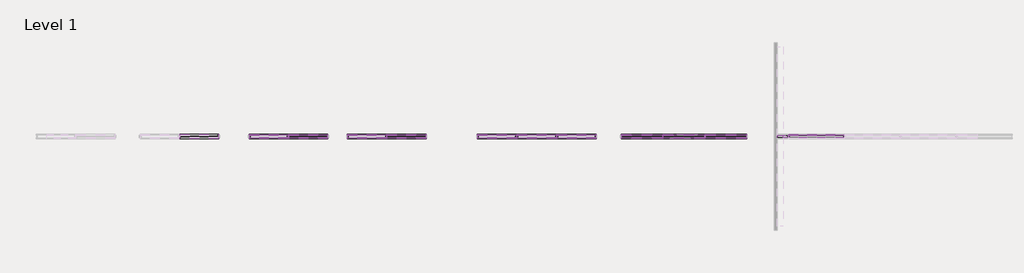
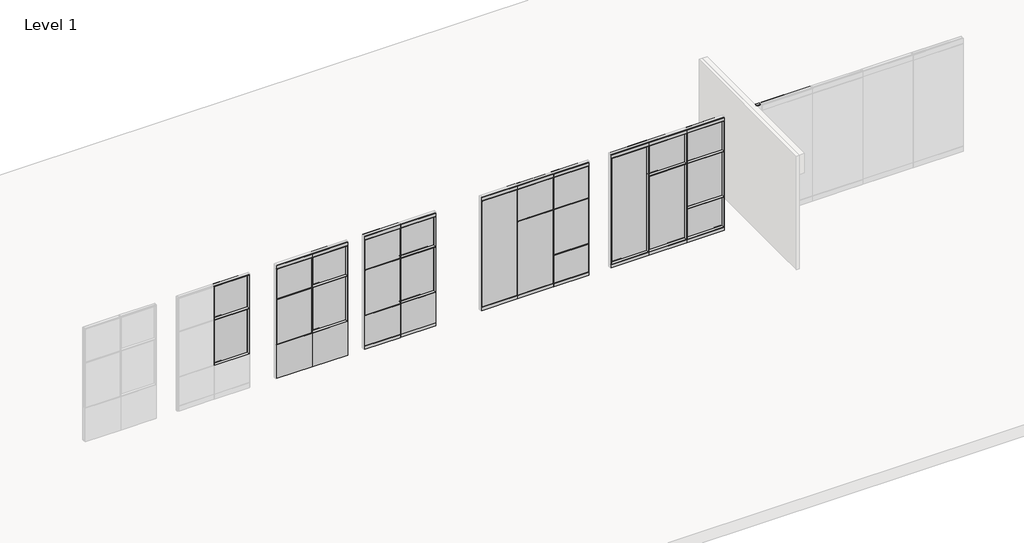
# One storey, part 12 of 22: 104 proxies.
"""IFC4 building model written with IfcOpenShell, lengths in millimetres."""

from ifc_helpers import new_model, si_unit, origin, place, context, project, spatial, transform, mapped, element, save
from components import fkc_8072fc11, fkn_5ed5fb2b, fascia_teknion_ceiling_and_base_fpb1_f6fada93, fascia_teknion_ceiling_and_base_fpb1_c09701a2, fascia_teknion_ceiling_and_base_fpb1_836afdf3, fascia_teknion_ceiling_and_base_fpb1_db20a659, fascia_teknion_ceiling_and_base_fpb1_df58155e, fascia_teknion_ceiling_and_base_fpb1_1edef506, fascia_teknion_ceiling_and_base_fpb1_cd47c96b, fascia_teknion_ceiling_and_base_fpb1_2ed09321, fascia_teknion_ceiling_and_base_fpc_696d0f28, fascia_teknion_ceiling_and_base_fpc_aab47f0c, fascia_teknion_ceiling_and_base_fpc_957b990b, frame_teknion_horizontal_rail_5872ae1a, frame_teknion_horizontal_rail_46ee653b, frame_teknion_horizontal_rail_d9ddab7f, frame_teknion_horizontal_rail_74d06c48, frame_teknion_horizontal_rail_96f289ab, frame_teknion_horizontal_rail_84c226ef, full_double_glass_8244c30e, full_single_78f033fe, glass_fascia_75a64c95, glass_fascia_d2a417b3, glass_fascia_74ba01bb, level_i_double_glass_59891672, level_i_single_glass_8a8042db, level_ii_d7c51a2e, level_ii_6986000c, level_ii_double_glass_cfeb0c75, level_ii_single_glass_14cafb3b, level_iii_double_glass_eeb2d2af, level_iii_single_glass_caffbde7, working_wall_monolithic_level_i_ddf61f7f, panel_fascia_teknion_mid_glass_level_i_f6f85d3a, working_wall_monolithic_level_i_49ea217e, panel_fascia_teknion_mid_glass_level_i_feadc1fd, segmented_level_i_double_glass_e7056d44, segmented_level_i_single_glass_277fe04a, segmented_level_ii_double_glass_1e1767e1, segmented_level_ii_single_glass_8e03ea76

model = new_model("IFC4")

# Units and contexts
model_context = context("Model", 3, world=origin())
ifc_project = project(units=[si_unit("LENGTHUNIT", "METRE", prefix="MILLI")], contexts=[model_context])

# Site, building, storey
site = spatial("IfcSite", under=ifc_project)
building = spatial("IfcBuilding", under=site)
storey = spatial("IfcBuildingStorey", under=building, Name="Level 1", Elevation=0.0)

# Proxies
placement = place(None, origin())
fkc_shape = fkc_8072fc11(model_context)
element("IfcBuildingElementProxy", 1, Name="Frame-Teknion-Altos-Base_Channel : FKC", ObjectType="Frame-Teknion-Altos-Base_Channel : FKC", at=placement, inside=storey, context=model_context, shape_type="MappedRepresentation", body=[
    mapped(fkc_shape, transform((3297.291666, 1812.351065, 0.0), x_axis=(-1.0, 0.0, 0.0), y_axis=(0.0, -1.0, 0.0), z_axis=(0.0, 0.0, 1.0))),
])
fkn_shape = fkn_5ed5fb2b(model_context)
element("IfcBuildingElementProxy", 2, Name="Frame-Teknion-Altos-Ceiling_Channel : FKN", ObjectType="Frame-Teknion-Altos-Ceiling_Channel : FKN", at=placement, inside=storey, context=model_context, shape_type="MappedRepresentation", body=[
    mapped(fkn_shape, transform((3360.791666, 1812.351065, 3048.0), x_axis=(-1.0, 0.0, 0.0), y_axis=(0.0, -1.0, 0.0), z_axis=(0.0, 0.0, 1.0))),
])
fascia_teknion_ceiling_and_base_fpb1_shape = fascia_teknion_ceiling_and_base_fpb1_f6fada93(model_context)
element("IfcBuildingElementProxy", 3, Name="Fascia-Teknion-Ceiling_and_Base : FPB1", ObjectType="Fascia-Teknion-Ceiling_and_Base : FPB1", at=placement, inside=storey, context=model_context, shape_type="MappedRepresentation", body=[
    mapped(fascia_teknion_ceiling_and_base_fpb1_shape, transform((4069.4615879, 1843.3402105, 15.875), x_axis=(1.0, 0.0, 0.0), y_axis=(0.0, 1.0, 0.0), z_axis=(0.0, 0.0, 1.0))),
])
fascia_teknion_ceiling_and_base_fpb1_2_shape = fascia_teknion_ceiling_and_base_fpb1_c09701a2(model_context)
element("IfcBuildingElementProxy", 4, Name="Fascia-Teknion-Ceiling_and_Base : FPB1", ObjectType="Fascia-Teknion-Ceiling_and_Base : FPB1", at=placement, inside=storey, context=model_context, shape_type="MappedRepresentation", body=[
    mapped(fascia_teknion_ceiling_and_base_fpb1_2_shape, transform((-6180.501085, 1862.357315, 15.875), x_axis=(1.0, 0.0, 0.0), y_axis=(0.0, 1.0, 0.0), z_axis=(0.0, 0.0, 1.0))),
])
element("IfcBuildingElementProxy", 5, Name="Fascia-Teknion-Ceiling_and_Base : FPB1", ObjectType="Fascia-Teknion-Ceiling_and_Base : FPB1", at=placement, inside=storey, context=model_context, shape_type="MappedRepresentation", body=[
    mapped(fascia_teknion_ceiling_and_base_fpb1_2_shape, transform((-5280.0909288, 1862.357315, 15.875), x_axis=(1.0, 0.0, 0.0), y_axis=(0.0, 1.0, 0.0), z_axis=(0.0, 0.0, 1.0))),
])
fascia_teknion_ceiling_and_base_fpb1_3_shape = fascia_teknion_ceiling_and_base_fpb1_836afdf3(model_context)
element("IfcBuildingElementProxy", 6, Name="Fascia-Teknion-Ceiling_and_Base : FPB1", ObjectType="Fascia-Teknion-Ceiling_and_Base : FPB1", at=placement, inside=storey, context=model_context, shape_type="MappedRepresentation", body=[
    mapped(fascia_teknion_ceiling_and_base_fpb1_3_shape, transform((-3216.5184902, 1762.344815, 15.875), x_axis=(1.0, 0.0, 0.0), y_axis=(0.0, 1.0, 0.0), z_axis=(0.0, 0.0, 1.0))),
])
element("IfcBuildingElementProxy", 7, Name="Fascia-Teknion-Ceiling_and_Base : FPB1", ObjectType="Fascia-Teknion-Ceiling_and_Base : FPB1", at=placement, inside=storey, context=model_context, shape_type="MappedRepresentation", body=[
    mapped(fascia_teknion_ceiling_and_base_fpb1_3_shape, transform((-3216.5184902, 1862.357315, 15.875), x_axis=(-1.0, 0.0, 0.0), y_axis=(0.0, -1.0, 0.0), z_axis=(0.0, 0.0, 1.0))),
])
element("IfcBuildingElementProxy", 8, Name="Fascia-Teknion-Ceiling_and_Base : FPB1", ObjectType="Fascia-Teknion-Ceiling_and_Base : FPB1", at=placement, inside=storey, context=model_context, shape_type="MappedRepresentation", body=[
    mapped(fascia_teknion_ceiling_and_base_fpb1_3_shape, transform((-1401.708334, 1762.344815, 15.875), x_axis=(1.0, 0.0, 0.0), y_axis=(0.0, 1.0, 0.0), z_axis=(0.0, 0.0, 1.0))),
])
element("IfcBuildingElementProxy", 9, Name="Fascia-Teknion-Ceiling_and_Base : FPB1", ObjectType="Fascia-Teknion-Ceiling_and_Base : FPB1", at=placement, inside=storey, context=model_context, shape_type="MappedRepresentation", body=[
    mapped(fascia_teknion_ceiling_and_base_fpb1_3_shape, transform((-1401.708334, 1862.357315, 15.875), x_axis=(-1.0, 0.0, 0.0), y_axis=(0.0, -1.0, 0.0), z_axis=(0.0, 0.0, 1.0))),
])
fascia_teknion_ceiling_and_base_fpb1_4_shape = fascia_teknion_ceiling_and_base_fpb1_db20a659(model_context)
element("IfcBuildingElementProxy", 10, Name="Fascia-Teknion-Ceiling_and_Base : FPB1", ObjectType="Fascia-Teknion-Ceiling_and_Base : FPB1", at=placement, inside=storey, context=model_context, shape_type="MappedRepresentation", body=[
    mapped(fascia_teknion_ceiling_and_base_fpb1_4_shape, transform((1043.6865879, 1762.344815, 15.875), x_axis=(1.0, 0.0, 0.0), y_axis=(0.0, 1.0, 0.0), z_axis=(0.0, 0.0, 1.0))),
])
element("IfcBuildingElementProxy", 11, Name="Fascia-Teknion-Ceiling_and_Base : FPB1", ObjectType="Fascia-Teknion-Ceiling_and_Base : FPB1", at=placement, inside=storey, context=model_context, shape_type="MappedRepresentation", body=[
    mapped(fascia_teknion_ceiling_and_base_fpb1_4_shape, transform((1043.6865879, 1862.357315, 15.875), x_axis=(-1.0, 0.0, 0.0), y_axis=(0.0, -1.0, 0.0), z_axis=(0.0, 0.0, 1.0))),
])
fascia_teknion_ceiling_and_base_fpb1_5_shape = fascia_teknion_ceiling_and_base_fpb1_df58155e(model_context)
element("IfcBuildingElementProxy", 12, Name="Fascia-Teknion-Ceiling_and_Base : FPB1", ObjectType="Fascia-Teknion-Ceiling_and_Base : FPB1", at=placement, inside=storey, context=model_context, shape_type="MappedRepresentation", body=[
    mapped(fascia_teknion_ceiling_and_base_fpb1_5_shape, transform((85.4815098, 1762.344815, 15.875), x_axis=(1.0, 0.0, 0.0), y_axis=(0.0, 1.0, 0.0), z_axis=(0.0, 0.0, 1.0))),
])
element("IfcBuildingElementProxy", 13, Name="Fascia-Teknion-Ceiling_and_Base : FPB1", ObjectType="Fascia-Teknion-Ceiling_and_Base : FPB1", at=placement, inside=storey, context=model_context, shape_type="MappedRepresentation", body=[
    mapped(fascia_teknion_ceiling_and_base_fpb1_5_shape, transform((85.4815098, 1862.357315, 15.875), x_axis=(-1.0, 0.0, 0.0), y_axis=(0.0, -1.0, 0.0), z_axis=(0.0, 0.0, 1.0))),
])
element("IfcBuildingElementProxy", 14, Name="Fascia-Teknion-Ceiling_and_Base : FPB1", ObjectType="Fascia-Teknion-Ceiling_and_Base : FPB1", at=placement, inside=storey, context=model_context, shape_type="MappedRepresentation", body=[
    mapped(fascia_teknion_ceiling_and_base_fpb1_5_shape, transform((2001.891666, 1762.344815, 15.875), x_axis=(1.0, 0.0, 0.0), y_axis=(0.0, 1.0, 0.0), z_axis=(0.0, 0.0, 1.0))),
])
element("IfcBuildingElementProxy", 15, Name="Fascia-Teknion-Ceiling_and_Base : FPB1", ObjectType="Fascia-Teknion-Ceiling_and_Base : FPB1", at=placement, inside=storey, context=model_context, shape_type="MappedRepresentation", body=[
    mapped(fascia_teknion_ceiling_and_base_fpb1_5_shape, transform((2001.891666, 1862.357315, 15.875), x_axis=(-1.0, 0.0, 0.0), y_axis=(0.0, -1.0, 0.0), z_axis=(0.0, 0.0, 1.0))),
])
fascia_teknion_ceiling_and_base_fpb1_6_shape = fascia_teknion_ceiling_and_base_fpb1_1edef506(model_context)
element("IfcBuildingElementProxy", 16, Name="Fascia-Teknion-Ceiling_and_Base : FPB1", ObjectType="Fascia-Teknion-Ceiling_and_Base : FPB1", at=placement, inside=storey, context=model_context, shape_type="MappedRepresentation", body=[
    mapped(fascia_teknion_ceiling_and_base_fpb1_6_shape, transform((-2309.1134121, 1762.344815, 15.875), x_axis=(1.0, 0.0, 0.0), y_axis=(0.0, 1.0, 0.0), z_axis=(0.0, 0.0, 1.0))),
])
element("IfcBuildingElementProxy", 17, Name="Fascia-Teknion-Ceiling_and_Base : FPB1", ObjectType="Fascia-Teknion-Ceiling_and_Base : FPB1", at=placement, inside=storey, context=model_context, shape_type="MappedRepresentation", body=[
    mapped(fascia_teknion_ceiling_and_base_fpb1_6_shape, transform((-2309.1134121, 1862.357315, 15.875), x_axis=(-1.0, 0.0, 0.0), y_axis=(0.0, -1.0, 0.0), z_axis=(0.0, 0.0, 1.0))),
])
fascia_teknion_ceiling_and_base_fpb1_7_shape = fascia_teknion_ceiling_and_base_fpb1_cd47c96b(model_context)
element("IfcBuildingElementProxy", 18, Name="Fascia-Teknion-Ceiling_and_Base : FPB1", ObjectType="Fascia-Teknion-Ceiling_and_Base : FPB1", at=placement, inside=storey, context=model_context, shape_type="MappedRepresentation", body=[
    mapped(fascia_teknion_ceiling_and_base_fpb1_7_shape, transform((-6180.501085, 1762.344815, 15.875), x_axis=(1.0, 0.0, 0.0), y_axis=(0.0, 1.0, 0.0), z_axis=(0.0, 0.0, 1.0))),
])
element("IfcBuildingElementProxy", 19, Name="Fascia-Teknion-Ceiling_and_Base : FPB1", ObjectType="Fascia-Teknion-Ceiling_and_Base : FPB1", at=placement, inside=storey, context=model_context, shape_type="MappedRepresentation", body=[
    mapped(fascia_teknion_ceiling_and_base_fpb1_7_shape, transform((-5280.0909288, 1762.344815, 15.875), x_axis=(1.0, 0.0, 0.0), y_axis=(0.0, 1.0, 0.0), z_axis=(0.0, 0.0, 1.0))),
])
element("IfcBuildingElementProxy", 20, Name="Fascia-Teknion-Ceiling_and_Base : FPC", ObjectType="Fascia-Teknion-Ceiling_and_Base : FPC", at=placement, inside=storey, context=model_context, shape_type="MappedRepresentation", body=[
    mapped(fascia_teknion_ceiling_and_base_fpb1_shape, transform((4069.4615879, 1843.3402105, 2900.045), x_axis=(1.0, 0.0, 0.0), y_axis=(0.0, 1.0, 0.0), z_axis=(0.0, 0.0, 1.0))),
])
element("IfcBuildingElementProxy", 21, Name="Fascia-Teknion-Ceiling_and_Base : FPC", ObjectType="Fascia-Teknion-Ceiling_and_Base : FPC", at=placement, inside=storey, context=model_context, shape_type="MappedRepresentation", body=[
    mapped(fascia_teknion_ceiling_and_base_fpb1_3_shape, transform((-3216.5184902, 1762.344815, 2950.845), x_axis=(1.0, 0.0, 0.0), y_axis=(0.0, 1.0, 0.0), z_axis=(0.0, 0.0, 1.0))),
])
element("IfcBuildingElementProxy", 22, Name="Fascia-Teknion-Ceiling_and_Base : FPC", ObjectType="Fascia-Teknion-Ceiling_and_Base : FPC", at=placement, inside=storey, context=model_context, shape_type="MappedRepresentation", body=[
    mapped(fascia_teknion_ceiling_and_base_fpb1_3_shape, transform((-1401.708334, 1762.344815, 2950.845), x_axis=(1.0, 0.0, 0.0), y_axis=(0.0, 1.0, 0.0), z_axis=(0.0, 0.0, 1.0))),
])
fascia_teknion_ceiling_and_base_fpb1_8_shape = fascia_teknion_ceiling_and_base_fpb1_2ed09321(model_context)
element("IfcBuildingElementProxy", 23, Name="Fascia-Teknion-Ceiling_and_Base : FPC", ObjectType="Fascia-Teknion-Ceiling_and_Base : FPC", at=placement, inside=storey, context=model_context, shape_type="MappedRepresentation", body=[
    mapped(fascia_teknion_ceiling_and_base_fpb1_8_shape, transform((-3216.5184902, 1862.357315, 2950.845), x_axis=(1.0, 0.0, 0.0), y_axis=(0.0, 1.0, 0.0), z_axis=(0.0, 0.0, 1.0))),
])
element("IfcBuildingElementProxy", 24, Name="Fascia-Teknion-Ceiling_and_Base : FPC", ObjectType="Fascia-Teknion-Ceiling_and_Base : FPC", at=placement, inside=storey, context=model_context, shape_type="MappedRepresentation", body=[
    mapped(fascia_teknion_ceiling_and_base_fpb1_8_shape, transform((-1401.708334, 1862.357315, 2950.845), x_axis=(1.0, 0.0, 0.0), y_axis=(0.0, 1.0, 0.0), z_axis=(0.0, 0.0, 1.0))),
])
element("IfcBuildingElementProxy", 25, Name="Fascia-Teknion-Ceiling_and_Base : FPC", ObjectType="Fascia-Teknion-Ceiling_and_Base : FPC", at=placement, inside=storey, context=model_context, shape_type="MappedRepresentation", body=[
    mapped(fascia_teknion_ceiling_and_base_fpb1_2_shape, transform((-6180.501085, 1862.357315, 2950.845), x_axis=(1.0, 0.0, 0.0), y_axis=(0.0, 1.0, 0.0), z_axis=(0.0, 0.0, 1.0))),
])
element("IfcBuildingElementProxy", 26, Name="Fascia-Teknion-Ceiling_and_Base : FPC", ObjectType="Fascia-Teknion-Ceiling_and_Base : FPC", at=placement, inside=storey, context=model_context, shape_type="MappedRepresentation", body=[
    mapped(fascia_teknion_ceiling_and_base_fpb1_2_shape, transform((-5280.0909288, 1862.357315, 2950.845), x_axis=(1.0, 0.0, 0.0), y_axis=(0.0, 1.0, 0.0), z_axis=(0.0, 0.0, 1.0))),
])
element("IfcBuildingElementProxy", 27, Name="Fascia-Teknion-Ceiling_and_Base : FPC", ObjectType="Fascia-Teknion-Ceiling_and_Base : FPC", at=placement, inside=storey, context=model_context, shape_type="MappedRepresentation", body=[
    mapped(fascia_teknion_ceiling_and_base_fpb1_2_shape, transform((-8415.701085, 1862.357315, 2950.845), x_axis=(1.0, 0.0, 0.0), y_axis=(0.0, 1.0, 0.0), z_axis=(0.0, 0.0, 1.0))),
])
element("IfcBuildingElementProxy", 28, Name="Fascia-Teknion-Ceiling_and_Base : FPC", ObjectType="Fascia-Teknion-Ceiling_and_Base : FPC", at=placement, inside=storey, context=model_context, shape_type="MappedRepresentation", body=[
    mapped(fascia_teknion_ceiling_and_base_fpb1_2_shape, transform((-7515.2909288, 1862.357315, 2950.845), x_axis=(1.0, 0.0, 0.0), y_axis=(0.0, 1.0, 0.0), z_axis=(0.0, 0.0, 1.0))),
])
element("IfcBuildingElementProxy", 29, Name="Fascia-Teknion-Ceiling_and_Base : FPC", ObjectType="Fascia-Teknion-Ceiling_and_Base : FPC", at=placement, inside=storey, context=model_context, shape_type="MappedRepresentation", body=[
    mapped(fascia_teknion_ceiling_and_base_fpb1_7_shape, transform((-6180.501085, 1762.344815, 2950.845), x_axis=(1.0, 0.0, 0.0), y_axis=(0.0, 1.0, 0.0), z_axis=(0.0, 0.0, 1.0))),
])
element("IfcBuildingElementProxy", 30, Name="Fascia-Teknion-Ceiling_and_Base : FPC", ObjectType="Fascia-Teknion-Ceiling_and_Base : FPC", at=placement, inside=storey, context=model_context, shape_type="MappedRepresentation", body=[
    mapped(fascia_teknion_ceiling_and_base_fpb1_7_shape, transform((-5280.0909288, 1762.344815, 2950.845), x_axis=(1.0, 0.0, 0.0), y_axis=(0.0, 1.0, 0.0), z_axis=(0.0, 0.0, 1.0))),
])
element("IfcBuildingElementProxy", 31, Name="Fascia-Teknion-Ceiling_and_Base : FPC", ObjectType="Fascia-Teknion-Ceiling_and_Base : FPC", at=placement, inside=storey, context=model_context, shape_type="MappedRepresentation", body=[
    mapped(fascia_teknion_ceiling_and_base_fpb1_7_shape, transform((-8415.701085, 1762.344815, 2950.845), x_axis=(1.0, 0.0, 0.0), y_axis=(0.0, 1.0, 0.0), z_axis=(0.0, 0.0, 1.0))),
])
element("IfcBuildingElementProxy", 32, Name="Fascia-Teknion-Ceiling_and_Base : FPC", ObjectType="Fascia-Teknion-Ceiling_and_Base : FPC", at=placement, inside=storey, context=model_context, shape_type="MappedRepresentation", body=[
    mapped(fascia_teknion_ceiling_and_base_fpb1_7_shape, transform((-7515.2909288, 1762.344815, 2950.845), x_axis=(1.0, 0.0, 0.0), y_axis=(0.0, 1.0, 0.0), z_axis=(0.0, 0.0, 1.0))),
])
element("IfcBuildingElementProxy", 33, Name="Fascia-Teknion-Ceiling_and_Base : FPC", ObjectType="Fascia-Teknion-Ceiling_and_Base : FPC", at=placement, inside=storey, context=model_context, shape_type="MappedRepresentation", body=[
    mapped(fascia_teknion_ceiling_and_base_fpb1_4_shape, transform((1043.6865879, 1762.344815, 2950.845), x_axis=(1.0, 0.0, 0.0), y_axis=(0.0, 1.0, 0.0), z_axis=(0.0, 0.0, 1.0))),
])
fascia_teknion_ceiling_and_base_fpc_shape = fascia_teknion_ceiling_and_base_fpc_696d0f28(model_context)
element("IfcBuildingElementProxy", 34, Name="Fascia-Teknion-Ceiling_and_Base : FPC", ObjectType="Fascia-Teknion-Ceiling_and_Base : FPC", at=placement, inside=storey, context=model_context, shape_type="MappedRepresentation", body=[
    mapped(fascia_teknion_ceiling_and_base_fpc_shape, transform((1043.6865879, 1862.357315, 2950.845), x_axis=(1.0, 0.0, 0.0), y_axis=(0.0, 1.0, 0.0), z_axis=(0.0, 0.0, 1.0))),
])
element("IfcBuildingElementProxy", 35, Name="Fascia-Teknion-Ceiling_and_Base : FPC", ObjectType="Fascia-Teknion-Ceiling_and_Base : FPC", at=placement, inside=storey, context=model_context, shape_type="MappedRepresentation", body=[
    mapped(fascia_teknion_ceiling_and_base_fpb1_5_shape, transform((85.4815098, 1762.344815, 2950.845), x_axis=(1.0, 0.0, 0.0), y_axis=(0.0, 1.0, 0.0), z_axis=(0.0, 0.0, 1.0))),
])
element("IfcBuildingElementProxy", 36, Name="Fascia-Teknion-Ceiling_and_Base : FPC", ObjectType="Fascia-Teknion-Ceiling_and_Base : FPC", at=placement, inside=storey, context=model_context, shape_type="MappedRepresentation", body=[
    mapped(fascia_teknion_ceiling_and_base_fpb1_5_shape, transform((2001.891666, 1762.344815, 2950.845), x_axis=(1.0, 0.0, 0.0), y_axis=(0.0, 1.0, 0.0), z_axis=(0.0, 0.0, 1.0))),
])
fascia_teknion_ceiling_and_base_fpc_2_shape = fascia_teknion_ceiling_and_base_fpc_aab47f0c(model_context)
element("IfcBuildingElementProxy", 37, Name="Fascia-Teknion-Ceiling_and_Base : FPC", ObjectType="Fascia-Teknion-Ceiling_and_Base : FPC", at=placement, inside=storey, context=model_context, shape_type="MappedRepresentation", body=[
    mapped(fascia_teknion_ceiling_and_base_fpc_2_shape, transform((85.4815098, 1862.357315, 2950.845), x_axis=(1.0, 0.0, 0.0), y_axis=(0.0, 1.0, 0.0), z_axis=(0.0, 0.0, 1.0))),
])
element("IfcBuildingElementProxy", 38, Name="Fascia-Teknion-Ceiling_and_Base : FPC", ObjectType="Fascia-Teknion-Ceiling_and_Base : FPC", at=placement, inside=storey, context=model_context, shape_type="MappedRepresentation", body=[
    mapped(fascia_teknion_ceiling_and_base_fpc_2_shape, transform((2001.891666, 1862.357315, 2950.845), x_axis=(1.0, 0.0, 0.0), y_axis=(0.0, 1.0, 0.0), z_axis=(0.0, 0.0, 1.0))),
])
element("IfcBuildingElementProxy", 39, Name="Fascia-Teknion-Ceiling_and_Base : FPC", ObjectType="Fascia-Teknion-Ceiling_and_Base : FPC", at=placement, inside=storey, context=model_context, shape_type="MappedRepresentation", body=[
    mapped(fascia_teknion_ceiling_and_base_fpb1_6_shape, transform((-2309.1134121, 1762.344815, 2950.845), x_axis=(1.0, 0.0, 0.0), y_axis=(0.0, 1.0, 0.0), z_axis=(0.0, 0.0, 1.0))),
])
fascia_teknion_ceiling_and_base_fpc_3_shape = fascia_teknion_ceiling_and_base_fpc_957b990b(model_context)
element("IfcBuildingElementProxy", 40, Name="Fascia-Teknion-Ceiling_and_Base : FPC", ObjectType="Fascia-Teknion-Ceiling_and_Base : FPC", at=placement, inside=storey, context=model_context, shape_type="MappedRepresentation", body=[
    mapped(fascia_teknion_ceiling_and_base_fpc_3_shape, transform((-2309.1134121, 1862.357315, 2950.845), x_axis=(1.0, 0.0, 0.0), y_axis=(0.0, 1.0, 0.0), z_axis=(0.0, 0.0, 1.0))),
])
frame_teknion_horizontal_rail_shape = frame_teknion_horizontal_rail_5872ae1a(model_context)
element("IfcBuildingElementProxy", 41, Name="Frame-Teknion-Horizontal_Rail : FPKK", ObjectType="Frame-Teknion-Horizontal_Rail : FPKK", at=placement, inside=storey, context=model_context, shape_type="MappedRepresentation", body=[
    mapped(frame_teknion_horizontal_rail_shape, transform((-3216.5184902, 1812.351065, 100.33), x_axis=(1.0, 0.0, 0.0), y_axis=(0.0, 1.0, 0.0), z_axis=(0.0, 0.0, 1.0))),
])
element("IfcBuildingElementProxy", 42, Name="Frame-Teknion-Horizontal_Rail : FPKK", ObjectType="Frame-Teknion-Horizontal_Rail : FPKK", at=placement, inside=storey, context=model_context, shape_type="MappedRepresentation", body=[
    mapped(frame_teknion_horizontal_rail_shape, transform((-3216.5184902, 1812.351065, 2947.67), x_axis=(1.0, 0.0, 0.0), y_axis=(0.0, 1.0, 0.0), z_axis=(0.0, 0.0, 1.0))),
])
element("IfcBuildingElementProxy", 43, Name="Frame-Teknion-Horizontal_Rail : FPKK", ObjectType="Frame-Teknion-Horizontal_Rail : FPKK", at=placement, inside=storey, context=model_context, shape_type="MappedRepresentation", body=[
    mapped(frame_teknion_horizontal_rail_shape, transform((-1401.708334, 1812.351065, 100.33), x_axis=(1.0, 0.0, 0.0), y_axis=(0.0, 1.0, 0.0), z_axis=(0.0, 0.0, 1.0))),
])
element("IfcBuildingElementProxy", 44, Name="Frame-Teknion-Horizontal_Rail : FPKK", ObjectType="Frame-Teknion-Horizontal_Rail : FPKK", at=placement, inside=storey, context=model_context, shape_type="MappedRepresentation", body=[
    mapped(frame_teknion_horizontal_rail_shape, transform((-1401.708334, 1812.351065, 862.33), x_axis=(1.0, 0.0, 0.0), y_axis=(0.0, 1.0, 0.0), z_axis=(0.0, 0.0, 1.0))),
])
element("IfcBuildingElementProxy", 45, Name="Frame-Teknion-Horizontal_Rail : FPKK", ObjectType="Frame-Teknion-Horizontal_Rail : FPKK", at=placement, inside=storey, context=model_context, shape_type="MappedRepresentation", body=[
    mapped(frame_teknion_horizontal_rail_shape, transform((-1401.708334, 1812.351065, 2081.53), x_axis=(1.0, 0.0, 0.0), y_axis=(0.0, 1.0, 0.0), z_axis=(0.0, 0.0, 1.0))),
])
element("IfcBuildingElementProxy", 46, Name="Frame-Teknion-Horizontal_Rail : FPKK", ObjectType="Frame-Teknion-Horizontal_Rail : FPKK", at=placement, inside=storey, context=model_context, shape_type="MappedRepresentation", body=[
    mapped(frame_teknion_horizontal_rail_shape, transform((-1401.708334, 1812.351065, 2947.67), x_axis=(1.0, 0.0, 0.0), y_axis=(0.0, 1.0, 0.0), z_axis=(0.0, 0.0, 1.0))),
])
element("IfcBuildingElementProxy", 47, Name="Frame-Teknion-Horizontal_Rail : FPKK", ObjectType="Frame-Teknion-Horizontal_Rail : FPKK", at=placement, inside=storey, context=model_context, shape_type="MappedRepresentation", body=[
    mapped(frame_teknion_horizontal_rail_shape, transform((-8415.701085, 1812.351065, 917.575), x_axis=(1.0, 0.0, 0.0), y_axis=(0.0, 1.0, 0.0), z_axis=(0.0, 0.0, 1.0))),
])
element("IfcBuildingElementProxy", 48, Name="Frame-Teknion-Horizontal_Rail : FPKK", ObjectType="Frame-Teknion-Horizontal_Rail : FPKK", at=placement, inside=storey, context=model_context, shape_type="MappedRepresentation", body=[
    mapped(frame_teknion_horizontal_rail_shape, transform((-8415.701085, 1812.351065, 2136.775), x_axis=(1.0, 0.0, 0.0), y_axis=(0.0, 1.0, 0.0), z_axis=(0.0, 0.0, 1.0))),
])
element("IfcBuildingElementProxy", 49, Name="Frame-Teknion-Horizontal_Rail : FPKK", ObjectType="Frame-Teknion-Horizontal_Rail : FPKK", at=placement, inside=storey, context=model_context, shape_type="MappedRepresentation", body=[
    mapped(frame_teknion_horizontal_rail_shape, transform((-6180.501085, 1812.351065, 917.575), x_axis=(1.0, 0.0, 0.0), y_axis=(0.0, 1.0, 0.0), z_axis=(0.0, 0.0, 1.0))),
])
element("IfcBuildingElementProxy", 50, Name="Frame-Teknion-Horizontal_Rail : FPKK", ObjectType="Frame-Teknion-Horizontal_Rail : FPKK", at=placement, inside=storey, context=model_context, shape_type="MappedRepresentation", body=[
    mapped(frame_teknion_horizontal_rail_shape, transform((-6180.501085, 1812.351065, 2136.775), x_axis=(1.0, 0.0, 0.0), y_axis=(0.0, 1.0, 0.0), z_axis=(0.0, 0.0, 1.0))),
])
element("IfcBuildingElementProxy", 51, Name="Frame-Teknion-Horizontal_Rail : FPKK", ObjectType="Frame-Teknion-Horizontal_Rail : FPKK", at=placement, inside=storey, context=model_context, shape_type="MappedRepresentation", body=[
    mapped(frame_teknion_horizontal_rail_shape, transform((-10004.4909288, 1812.351065, 151.257), x_axis=(1.0, 0.0, 0.0), y_axis=(0.0, 1.0, 0.0), z_axis=(0.0, 0.0, 1.0))),
])
element("IfcBuildingElementProxy", 52, Name="Frame-Teknion-Horizontal_Rail : FPKK", ObjectType="Frame-Teknion-Horizontal_Rail : FPKK", at=placement, inside=storey, context=model_context, shape_type="MappedRepresentation", body=[
    mapped(frame_teknion_horizontal_rail_shape, transform((-7515.2909288, 1812.351065, 917.575), x_axis=(1.0, 0.0, 0.0), y_axis=(0.0, 1.0, 0.0), z_axis=(0.0, 0.0, 1.0))),
])
element("IfcBuildingElementProxy", 53, Name="Frame-Teknion-Horizontal_Rail : FPKK", ObjectType="Frame-Teknion-Horizontal_Rail : FPKK", at=placement, inside=storey, context=model_context, shape_type="MappedRepresentation", body=[
    mapped(frame_teknion_horizontal_rail_shape, transform((-7515.2909288, 1812.351065, 2136.775), x_axis=(1.0, 0.0, 0.0), y_axis=(0.0, 1.0, 0.0), z_axis=(0.0, 0.0, 1.0))),
])
element("IfcBuildingElementProxy", 54, Name="Frame-Teknion-Horizontal_Rail : FPKK", ObjectType="Frame-Teknion-Horizontal_Rail : FPKK", at=placement, inside=storey, context=model_context, shape_type="MappedRepresentation", body=[
    mapped(frame_teknion_horizontal_rail_shape, transform((-5280.0909288, 1812.351065, 917.575), x_axis=(1.0, 0.0, 0.0), y_axis=(0.0, 1.0, 0.0), z_axis=(0.0, 0.0, 1.0))),
])
element("IfcBuildingElementProxy", 55, Name="Frame-Teknion-Horizontal_Rail : FPKK", ObjectType="Frame-Teknion-Horizontal_Rail : FPKK", at=placement, inside=storey, context=model_context, shape_type="MappedRepresentation", body=[
    mapped(frame_teknion_horizontal_rail_shape, transform((-5280.0909288, 1812.351065, 2136.775), x_axis=(1.0, 0.0, 0.0), y_axis=(0.0, 1.0, 0.0), z_axis=(0.0, 0.0, 1.0))),
])
element("IfcBuildingElementProxy", 56, Name="Frame-Teknion-Horizontal_Rail : FPKK", ObjectType="Frame-Teknion-Horizontal_Rail : FPKK", at=placement, inside=storey, context=model_context, shape_type="MappedRepresentation", body=[
    mapped(frame_teknion_horizontal_rail_shape, transform((-6180.501085, 1812.351065, 2947.543), x_axis=(1.0, 0.0, 0.0), y_axis=(0.0, 1.0, 0.0), z_axis=(0.0, 0.0, 1.0))),
])
element("IfcBuildingElementProxy", 57, Name="Frame-Teknion-Horizontal_Rail : FPKK", ObjectType="Frame-Teknion-Horizontal_Rail : FPKK", at=placement, inside=storey, context=model_context, shape_type="MappedRepresentation", body=[
    mapped(frame_teknion_horizontal_rail_shape, transform((-5280.0909288, 1812.351065, 2947.543), x_axis=(1.0, 0.0, 0.0), y_axis=(0.0, 1.0, 0.0), z_axis=(0.0, 0.0, 1.0))),
])
element("IfcBuildingElementProxy", 58, Name="Frame-Teknion-Horizontal_Rail : FPKK", ObjectType="Frame-Teknion-Horizontal_Rail : FPKK", at=placement, inside=storey, context=model_context, shape_type="MappedRepresentation", body=[
    mapped(frame_teknion_horizontal_rail_shape, transform((-8415.701085, 1812.351065, 2947.543), x_axis=(1.0, 0.0, 0.0), y_axis=(0.0, 1.0, 0.0), z_axis=(0.0, 0.0, 1.0))),
])
element("IfcBuildingElementProxy", 59, Name="Frame-Teknion-Horizontal_Rail : FPKK", ObjectType="Frame-Teknion-Horizontal_Rail : FPKK", at=placement, inside=storey, context=model_context, shape_type="MappedRepresentation", body=[
    mapped(frame_teknion_horizontal_rail_shape, transform((-7515.2909288, 1812.351065, 2947.543), x_axis=(1.0, 0.0, 0.0), y_axis=(0.0, 1.0, 0.0), z_axis=(0.0, 0.0, 1.0))),
])
element("IfcBuildingElementProxy", 60, Name="Frame-Teknion-Horizontal_Rail : FPKK", ObjectType="Frame-Teknion-Horizontal_Rail : FPKK", at=placement, inside=storey, context=model_context, shape_type="MappedRepresentation", body=[
    mapped(frame_teknion_horizontal_rail_shape, transform((-6180.501085, 1812.351065, 100.457), x_axis=(1.0, 0.0, 0.0), y_axis=(0.0, 1.0, 0.0), z_axis=(0.0, 0.0, 1.0))),
])
element("IfcBuildingElementProxy", 61, Name="Frame-Teknion-Horizontal_Rail : FPKK", ObjectType="Frame-Teknion-Horizontal_Rail : FPKK", at=placement, inside=storey, context=model_context, shape_type="MappedRepresentation", body=[
    mapped(frame_teknion_horizontal_rail_shape, transform((-5280.0909288, 1812.351065, 100.457), x_axis=(1.0, 0.0, 0.0), y_axis=(0.0, 1.0, 0.0), z_axis=(0.0, 0.0, 1.0))),
])
frame_teknion_horizontal_rail_2_shape = frame_teknion_horizontal_rail_46ee653b(model_context)
element("IfcBuildingElementProxy", 62, Name="Frame-Teknion-Horizontal_Rail : FPKK", ObjectType="Frame-Teknion-Horizontal_Rail : FPKK", at=placement, inside=storey, context=model_context, shape_type="MappedRepresentation", body=[
    mapped(frame_teknion_horizontal_rail_2_shape, transform((-2309.1134121, 1812.351065, 100.33), x_axis=(1.0, 0.0, 0.0), y_axis=(0.0, 1.0, 0.0), z_axis=(0.0, 0.0, 1.0))),
])
element("IfcBuildingElementProxy", 63, Name="Frame-Teknion-Horizontal_Rail : FPKK", ObjectType="Frame-Teknion-Horizontal_Rail : FPKK", at=placement, inside=storey, context=model_context, shape_type="MappedRepresentation", body=[
    mapped(frame_teknion_horizontal_rail_2_shape, transform((-2309.1134121, 1812.351065, 2947.67), x_axis=(1.0, 0.0, 0.0), y_axis=(0.0, 1.0, 0.0), z_axis=(0.0, 0.0, 1.0))),
])
frame_teknion_horizontal_rail_3_shape = frame_teknion_horizontal_rail_d9ddab7f(model_context)
element("IfcBuildingElementProxy", 64, Name="Frame-Teknion-Horizontal_Rail : FPKK", ObjectType="Frame-Teknion-Horizontal_Rail : FPKK", at=placement, inside=storey, context=model_context, shape_type="MappedRepresentation", body=[
    mapped(frame_teknion_horizontal_rail_3_shape, transform((85.4815098, 1812.351065, 100.33), x_axis=(1.0, 0.0, 0.0), y_axis=(0.0, 1.0, 0.0), z_axis=(0.0, 0.0, 1.0))),
])
element("IfcBuildingElementProxy", 65, Name="Frame-Teknion-Horizontal_Rail : FPKK", ObjectType="Frame-Teknion-Horizontal_Rail : FPKK", at=placement, inside=storey, context=model_context, shape_type="MappedRepresentation", body=[
    mapped(frame_teknion_horizontal_rail_3_shape, transform((85.4815098, 1812.351065, 2947.67), x_axis=(1.0, 0.0, 0.0), y_axis=(0.0, 1.0, 0.0), z_axis=(0.0, 0.0, 1.0))),
])
element("IfcBuildingElementProxy", 66, Name="Frame-Teknion-Horizontal_Rail : FPKK", ObjectType="Frame-Teknion-Horizontal_Rail : FPKK", at=placement, inside=storey, context=model_context, shape_type="MappedRepresentation", body=[
    mapped(frame_teknion_horizontal_rail_3_shape, transform((2001.891666, 1812.351065, 100.33), x_axis=(1.0, 0.0, 0.0), y_axis=(0.0, 1.0, 0.0), z_axis=(0.0, 0.0, 1.0))),
])
element("IfcBuildingElementProxy", 67, Name="Frame-Teknion-Horizontal_Rail : FPKK", ObjectType="Frame-Teknion-Horizontal_Rail : FPKK", at=placement, inside=storey, context=model_context, shape_type="MappedRepresentation", body=[
    mapped(frame_teknion_horizontal_rail_3_shape, transform((2001.891666, 1812.351065, 913.13), x_axis=(1.0, 0.0, 0.0), y_axis=(0.0, 1.0, 0.0), z_axis=(0.0, 0.0, 1.0))),
])
element("IfcBuildingElementProxy", 68, Name="Frame-Teknion-Horizontal_Rail : FPKK", ObjectType="Frame-Teknion-Horizontal_Rail : FPKK", at=placement, inside=storey, context=model_context, shape_type="MappedRepresentation", body=[
    mapped(frame_teknion_horizontal_rail_3_shape, transform((2001.891666, 1812.351065, 2132.33), x_axis=(1.0, 0.0, 0.0), y_axis=(0.0, 1.0, 0.0), z_axis=(0.0, 0.0, 1.0))),
])
element("IfcBuildingElementProxy", 69, Name="Frame-Teknion-Horizontal_Rail : FPKK", ObjectType="Frame-Teknion-Horizontal_Rail : FPKK", at=placement, inside=storey, context=model_context, shape_type="MappedRepresentation", body=[
    mapped(frame_teknion_horizontal_rail_3_shape, transform((2001.891666, 1812.351065, 2947.67), x_axis=(1.0, 0.0, 0.0), y_axis=(0.0, 1.0, 0.0), z_axis=(0.0, 0.0, 1.0))),
])
frame_teknion_horizontal_rail_4_shape = frame_teknion_horizontal_rail_74d06c48(model_context)
element("IfcBuildingElementProxy", 70, Name="Frame-Teknion-Horizontal_Rail : FPKK", ObjectType="Frame-Teknion-Horizontal_Rail : FPKK", at=placement, inside=storey, context=model_context, shape_type="MappedRepresentation", body=[
    mapped(frame_teknion_horizontal_rail_4_shape, transform((1043.6865879, 1812.351065, 100.33), x_axis=(1.0, 0.0, 0.0), y_axis=(0.0, 1.0, 0.0), z_axis=(0.0, 0.0, 1.0))),
])
element("IfcBuildingElementProxy", 71, Name="Frame-Teknion-Horizontal_Rail : FPKK", ObjectType="Frame-Teknion-Horizontal_Rail : FPKK", at=placement, inside=storey, context=model_context, shape_type="MappedRepresentation", body=[
    mapped(frame_teknion_horizontal_rail_4_shape, transform((1043.6865879, 1812.351065, 2947.67), x_axis=(1.0, 0.0, 0.0), y_axis=(0.0, 1.0, 0.0), z_axis=(0.0, 0.0, 1.0))),
])
frame_teknion_horizontal_rail_5_shape = frame_teknion_horizontal_rail_96f289ab(model_context)
element("IfcBuildingElementProxy", 72, Name="Frame-Teknion-Horizontal_Rail : FPKK", ObjectType="Frame-Teknion-Horizontal_Rail : FPKK", at=placement, inside=storey, context=model_context, shape_type="MappedRepresentation", body=[
    mapped(frame_teknion_horizontal_rail_5_shape, transform((4069.4615879, 1812.3522105, 151.257), x_axis=(1.0, 0.0, 0.0), y_axis=(0.0, 1.0, 0.0), z_axis=(0.0, 0.0, 1.0))),
])
element("IfcBuildingElementProxy", 73, Name="Frame-Teknion-Horizontal_Rail : FPKK", ObjectType="Frame-Teknion-Horizontal_Rail : FPKK", at=placement, inside=storey, context=model_context, shape_type="MappedRepresentation", body=[
    mapped(frame_teknion_horizontal_rail_5_shape, transform((4069.4615879, 1812.3522105, 2898.3305), x_axis=(1.0, 0.0, 0.0), y_axis=(0.0, 1.0, 0.0), z_axis=(0.0, 0.0, 1.0))),
])
frame_teknion_horizontal_rail_6_shape = frame_teknion_horizontal_rail_84c226ef(model_context)
element("IfcBuildingElementProxy", 74, Name="Frame-Teknion-Horizontal_Rail : FPKK", ObjectType="Frame-Teknion-Horizontal_Rail : FPKK", at=placement, inside=storey, context=model_context, shape_type="MappedRepresentation", body=[
    mapped(frame_teknion_horizontal_rail_6_shape, transform((3297.291666, 1812.351065, 1485.8890638), x_axis=(-1.0, 0.0, 0.0), y_axis=(0.0, -1.0, 0.0), z_axis=(0.0, 0.0, 1.0))),
])
full_double_glass_shape = full_double_glass_8244c30e(model_context)
element("IfcBuildingElementProxy", 75, Name="Panel-Fascia-Teknion-Altos-Double_Glass : Full-Double Glass", ObjectType="Panel-Fascia-Teknion-Altos-Double_Glass : Full-Double Glass", at=placement, inside=storey, context=model_context, shape_type="MappedRepresentation", body=[
    mapped(full_double_glass_shape, transform((-3216.5184902, 1812.351065, 100.33), x_axis=(1.0, 0.0, 0.0), y_axis=(0.0, 1.0, 0.0), z_axis=(0.0, 0.0, 1.0))),
])
full_single_shape = full_single_78f033fe(model_context)
element("IfcBuildingElementProxy", 76, Name="Panel-Fascia-Teknion-Altos-Single_Glass : Full-Single", ObjectType="Panel-Fascia-Teknion-Altos-Single_Glass : Full-Single", at=placement, inside=storey, context=model_context, shape_type="MappedRepresentation", body=[
    mapped(full_single_shape, transform((85.4815098, 1812.351065, 100.33), x_axis=(1.0, 0.0, 0.0), y_axis=(0.0, 1.0, 0.0), z_axis=(0.0, 0.0, 1.0))),
])
glass_fascia_shape = glass_fascia_75a64c95(model_context)
element("IfcBuildingElementProxy", 77, Name="Panel-Fascia-Teknion-Altos-Glass : Glass Fascia", ObjectType="Panel-Fascia-Teknion-Altos-Glass : Glass Fascia", at=placement, inside=storey, context=model_context, shape_type="MappedRepresentation", body=[
    mapped(glass_fascia_shape, transform((-10004.4909288, 1812.351065, 2136.775), x_axis=(1.0, 0.0, 0.0), y_axis=(0.0, 1.0, 0.0), z_axis=(0.0, 0.0, 1.0))),
])
glass_fascia_2_shape = glass_fascia_d2a417b3(model_context)
element("IfcBuildingElementProxy", 78, Name="Panel-Fascia-Teknion-Altos-Glass : Glass Fascia", ObjectType="Panel-Fascia-Teknion-Altos-Glass : Glass Fascia", at=placement, inside=storey, context=model_context, shape_type="MappedRepresentation", body=[
    mapped(glass_fascia_2_shape, transform((-8415.701085, 1812.351065, 2136.775), x_axis=(1.0, 0.0, 0.0), y_axis=(0.0, 1.0, 0.0), z_axis=(0.0, 0.0, 1.0))),
])
element("IfcBuildingElementProxy", 79, Name="Panel-Fascia-Teknion-Altos-Glass : Glass Fascia", ObjectType="Panel-Fascia-Teknion-Altos-Glass : Glass Fascia", at=placement, inside=storey, context=model_context, shape_type="MappedRepresentation", body=[
    mapped(glass_fascia_2_shape, transform((-6180.501085, 1812.351065, 2136.775), x_axis=(1.0, 0.0, 0.0), y_axis=(0.0, 1.0, 0.0), z_axis=(0.0, 0.0, 1.0))),
])
glass_fascia_3_shape = glass_fascia_74ba01bb(model_context)
element("IfcBuildingElementProxy", 80, Name="Panel-Fascia-Teknion-Altos-Glass : Glass Fascia", ObjectType="Panel-Fascia-Teknion-Altos-Glass : Glass Fascia", at=placement, inside=storey, context=model_context, shape_type="MappedRepresentation", body=[
    mapped(glass_fascia_3_shape, transform((-7515.2909288, 1812.351065, 2136.775), x_axis=(1.0, 0.0, 0.0), y_axis=(0.0, 1.0, 0.0), z_axis=(0.0, 0.0, 1.0))),
])
element("IfcBuildingElementProxy", 81, Name="Panel-Fascia-Teknion-Altos-Glass : Glass Fascia", ObjectType="Panel-Fascia-Teknion-Altos-Glass : Glass Fascia", at=placement, inside=storey, context=model_context, shape_type="MappedRepresentation", body=[
    mapped(glass_fascia_3_shape, transform((-5280.0909288, 1812.351065, 2136.775), x_axis=(1.0, 0.0, 0.0), y_axis=(0.0, 1.0, 0.0), z_axis=(0.0, 0.0, 1.0))),
])
level_i_double_glass_shape = level_i_double_glass_59891672(model_context)
element("IfcBuildingElementProxy", 82, Name="Panel-Fascia-Teknion-Altos-Double_Glass : Level I-Double Glass", ObjectType="Panel-Fascia-Teknion-Altos-Double_Glass : Level I-Double Glass", at=placement, inside=storey, context=model_context, shape_type="MappedRepresentation", body=[
    mapped(level_i_double_glass_shape, transform((-1401.708334, 1812.351065, 100.33), x_axis=(1.0, 0.0, 0.0), y_axis=(0.0, 1.0, 0.0), z_axis=(0.0, 0.0, 1.0))),
])
level_i_single_glass_shape = level_i_single_glass_8a8042db(model_context)
element("IfcBuildingElementProxy", 83, Name="Panel-Fascia-Teknion-Altos-Single_Glass : Level I-Single Glass", ObjectType="Panel-Fascia-Teknion-Altos-Single_Glass : Level I-Single Glass", at=placement, inside=storey, context=model_context, shape_type="MappedRepresentation", body=[
    mapped(level_i_single_glass_shape, transform((2001.891666, 1812.351065, 100.33), x_axis=(1.0, 0.0, 0.0), y_axis=(0.0, 1.0, 0.0), z_axis=(0.0, 0.0, 1.0))),
])
level_ii_shape = level_ii_d7c51a2e(model_context)
element("IfcBuildingElementProxy", 84, Name="Panel-Fascia-Teknion-Altos-Mid_Glass : Level II", ObjectType="Panel-Fascia-Teknion-Altos-Mid_Glass : Level II", at=placement, inside=storey, context=model_context, shape_type="MappedRepresentation", body=[
    mapped(level_ii_shape, transform((-8415.701085, 1812.351065, 917.575), x_axis=(1.0, 0.0, 0.0), y_axis=(0.0, 1.0, 0.0), z_axis=(0.0, 0.0, 1.0))),
])
element("IfcBuildingElementProxy", 85, Name="Panel-Fascia-Teknion-Altos-Mid_Glass : Level II", ObjectType="Panel-Fascia-Teknion-Altos-Mid_Glass : Level II", at=placement, inside=storey, context=model_context, shape_type="MappedRepresentation", body=[
    mapped(level_ii_shape, transform((-6180.501085, 1812.351065, 917.575), x_axis=(1.0, 0.0, 0.0), y_axis=(0.0, 1.0, 0.0), z_axis=(0.0, 0.0, 1.0))),
])
level_ii_2_shape = level_ii_6986000c(model_context)
element("IfcBuildingElementProxy", 86, Name="Panel-Fascia-Teknion-Altos-Mid_Glass : Level II", ObjectType="Panel-Fascia-Teknion-Altos-Mid_Glass : Level II", at=placement, inside=storey, context=model_context, shape_type="MappedRepresentation", body=[
    mapped(level_ii_2_shape, transform((-10004.4909288, 1812.351065, 917.575), x_axis=(1.0, 0.0, 0.0), y_axis=(0.0, 1.0, 0.0), z_axis=(0.0, 0.0, 1.0))),
])
element("IfcBuildingElementProxy", 87, Name="Panel-Fascia-Teknion-Altos-Mid_Glass : Level II", ObjectType="Panel-Fascia-Teknion-Altos-Mid_Glass : Level II", at=placement, inside=storey, context=model_context, shape_type="MappedRepresentation", body=[
    mapped(level_ii_2_shape, transform((-7515.2909288, 1812.351065, 917.575), x_axis=(1.0, 0.0, 0.0), y_axis=(0.0, 1.0, 0.0), z_axis=(0.0, 0.0, 1.0))),
])
element("IfcBuildingElementProxy", 88, Name="Panel-Fascia-Teknion-Altos-Mid_Glass : Level II", ObjectType="Panel-Fascia-Teknion-Altos-Mid_Glass : Level II", at=placement, inside=storey, context=model_context, shape_type="MappedRepresentation", body=[
    mapped(level_ii_2_shape, transform((-5280.0909288, 1812.351065, 917.575), x_axis=(1.0, 0.0, 0.0), y_axis=(0.0, 1.0, 0.0), z_axis=(0.0, 0.0, 1.0))),
])
level_ii_double_glass_shape = level_ii_double_glass_cfeb0c75(model_context)
element("IfcBuildingElementProxy", 89, Name="Panel-Fascia-Teknion-Altos-Double_Glass : Level II-Double Glass", ObjectType="Panel-Fascia-Teknion-Altos-Double_Glass : Level II-Double Glass", at=placement, inside=storey, context=model_context, shape_type="MappedRepresentation", body=[
    mapped(level_ii_double_glass_shape, transform((-1401.708334, 1812.351065, 862.33), x_axis=(1.0, 0.0, 0.0), y_axis=(0.0, 1.0, 0.0), z_axis=(0.0, 0.0, 1.0))),
])
level_ii_single_glass_shape = level_ii_single_glass_14cafb3b(model_context)
element("IfcBuildingElementProxy", 90, Name="Panel-Fascia-Teknion-Altos-Single_Glass : Level II-Single Glass", ObjectType="Panel-Fascia-Teknion-Altos-Single_Glass : Level II-Single Glass", at=placement, inside=storey, context=model_context, shape_type="MappedRepresentation", body=[
    mapped(level_ii_single_glass_shape, transform((2001.891666, 1812.351065, 913.13), x_axis=(1.0, 0.0, 0.0), y_axis=(0.0, 1.0, 0.0), z_axis=(0.0, 0.0, 1.0))),
])
level_iii_double_glass_shape = level_iii_double_glass_eeb2d2af(model_context)
element("IfcBuildingElementProxy", 91, Name="Panel-Fascia-Teknion-Altos-Double_Glass : Level III-Double Glass", ObjectType="Panel-Fascia-Teknion-Altos-Double_Glass : Level III-Double Glass", at=placement, inside=storey, context=model_context, shape_type="MappedRepresentation", body=[
    mapped(level_iii_double_glass_shape, transform((-1401.708334, 1812.351065, 2081.53), x_axis=(1.0, 0.0, 0.0), y_axis=(0.0, 1.0, 0.0), z_axis=(0.0, 0.0, 1.0))),
])
level_iii_single_glass_shape = level_iii_single_glass_caffbde7(model_context)
element("IfcBuildingElementProxy", 92, Name="Panel-Fascia-Teknion-Altos-Single_Glass : Level III-Single Glass", ObjectType="Panel-Fascia-Teknion-Altos-Single_Glass : Level III-Single Glass", at=placement, inside=storey, context=model_context, shape_type="MappedRepresentation", body=[
    mapped(level_iii_single_glass_shape, transform((2001.891666, 1812.351065, 2132.33), x_axis=(1.0, 0.0, 0.0), y_axis=(0.0, 1.0, 0.0), z_axis=(0.0, 0.0, 1.0))),
])
working_wall_monolithic_level_i_shape = working_wall_monolithic_level_i_ddf61f7f(model_context)
element("IfcBuildingElementProxy", 93, Name="Panel-Fascia-Teknion-Mid_Glass : Level I", ObjectType="Panel-Fascia-Teknion-Mid_Glass : Level I", at=placement, inside=storey, context=model_context, shape_type="MappedRepresentation", body=[
    mapped(working_wall_monolithic_level_i_shape, transform((-8415.701085, 1852.832315, 12.7), x_axis=(1.0, 0.0, 0.0), y_axis=(0.0, 1.0, 0.0), z_axis=(0.0, 0.0, 1.0))),
])
element("IfcBuildingElementProxy", 94, Name="Panel-Fascia-Teknion-Mid_Glass : Level I", ObjectType="Panel-Fascia-Teknion-Mid_Glass : Level I", at=placement, inside=storey, context=model_context, shape_type="MappedRepresentation", body=[
    mapped(working_wall_monolithic_level_i_shape, transform((-7515.2909288, 1852.832315, 12.7), x_axis=(1.0, 0.0, 0.0), y_axis=(0.0, 1.0, 0.0), z_axis=(0.0, 0.0, 1.0))),
])
panel_fascia_teknion_mid_glass_level_i_shape = panel_fascia_teknion_mid_glass_level_i_f6f85d3a(model_context)
element("IfcBuildingElementProxy", 95, Name="Panel-Fascia-Teknion-Mid_Glass : Level I", ObjectType="Panel-Fascia-Teknion-Mid_Glass : Level I", at=placement, inside=storey, context=model_context, shape_type="MappedRepresentation", body=[
    mapped(panel_fascia_teknion_mid_glass_level_i_shape, transform((-6180.501085, 1852.832315, 100.457), x_axis=(1.0, 0.0, 0.0), y_axis=(0.0, 1.0, 0.0), z_axis=(0.0, 0.0, 1.0))),
])
element("IfcBuildingElementProxy", 96, Name="Panel-Fascia-Teknion-Mid_Glass : Level I", ObjectType="Panel-Fascia-Teknion-Mid_Glass : Level I", at=placement, inside=storey, context=model_context, shape_type="MappedRepresentation", body=[
    mapped(panel_fascia_teknion_mid_glass_level_i_shape, transform((-5280.0909288, 1852.832315, 100.457), x_axis=(1.0, 0.0, 0.0), y_axis=(0.0, 1.0, 0.0), z_axis=(0.0, 0.0, 1.0))),
])
working_wall_monolithic_level_i_2_shape = working_wall_monolithic_level_i_49ea217e(model_context)
element("IfcBuildingElementProxy", 97, Name="Panel-Fascia-Teknion-Mid_Glass : Level I", ObjectType="Panel-Fascia-Teknion-Mid_Glass : Level I", at=placement, inside=storey, context=model_context, shape_type="MappedRepresentation", body=[
    mapped(working_wall_monolithic_level_i_2_shape, transform((-8415.701085, 1771.869815, 12.7), x_axis=(1.0, 0.0, 0.0), y_axis=(0.0, 1.0, 0.0), z_axis=(0.0, 0.0, 1.0))),
])
element("IfcBuildingElementProxy", 98, Name="Panel-Fascia-Teknion-Mid_Glass : Level I", ObjectType="Panel-Fascia-Teknion-Mid_Glass : Level I", at=placement, inside=storey, context=model_context, shape_type="MappedRepresentation", body=[
    mapped(working_wall_monolithic_level_i_2_shape, transform((-7515.2909288, 1771.869815, 12.7), x_axis=(1.0, 0.0, 0.0), y_axis=(0.0, 1.0, 0.0), z_axis=(0.0, 0.0, 1.0))),
])
panel_fascia_teknion_mid_glass_level_i_2_shape = panel_fascia_teknion_mid_glass_level_i_feadc1fd(model_context)
element("IfcBuildingElementProxy", 99, Name="Panel-Fascia-Teknion-Mid_Glass : Level I", ObjectType="Panel-Fascia-Teknion-Mid_Glass : Level I", at=placement, inside=storey, context=model_context, shape_type="MappedRepresentation", body=[
    mapped(panel_fascia_teknion_mid_glass_level_i_2_shape, transform((-6180.501085, 1771.869815, 100.457), x_axis=(1.0, 0.0, 0.0), y_axis=(0.0, 1.0, 0.0), z_axis=(0.0, 0.0, 1.0))),
])
element("IfcBuildingElementProxy", 100, Name="Panel-Fascia-Teknion-Mid_Glass : Level I", ObjectType="Panel-Fascia-Teknion-Mid_Glass : Level I", at=placement, inside=storey, context=model_context, shape_type="MappedRepresentation", body=[
    mapped(panel_fascia_teknion_mid_glass_level_i_2_shape, transform((-5280.0909288, 1771.869815, 100.457), x_axis=(1.0, 0.0, 0.0), y_axis=(0.0, 1.0, 0.0), z_axis=(0.0, 0.0, 1.0))),
])
segmented_level_i_double_glass_shape = segmented_level_i_double_glass_e7056d44(model_context)
element("IfcBuildingElementProxy", 101, Name="Panel-Fascia-Teknion-Altos-Double_Glass : Segmented_Level I-Double Glass", ObjectType="Panel-Fascia-Teknion-Altos-Double_Glass : Segmented_Level I-Double Glass", at=placement, inside=storey, context=model_context, shape_type="MappedRepresentation", body=[
    mapped(segmented_level_i_double_glass_shape, transform((-2309.1134121, 1812.351065, 100.33), x_axis=(1.0, 0.0, 0.0), y_axis=(0.0, 1.0, 0.0), z_axis=(0.0, 0.0, 1.0))),
])
segmented_level_i_single_glass_shape = segmented_level_i_single_glass_277fe04a(model_context)
element("IfcBuildingElementProxy", 102, Name="Panel-Fascia-Teknion-Altos-Single_Glass : Segmented_Level I-Single Glass", ObjectType="Panel-Fascia-Teknion-Altos-Single_Glass : Segmented_Level I-Single Glass", at=placement, inside=storey, context=model_context, shape_type="MappedRepresentation", body=[
    mapped(segmented_level_i_single_glass_shape, transform((1043.6865879, 1812.351065, 100.33), x_axis=(1.0, 0.0, 0.0), y_axis=(0.0, 1.0, 0.0), z_axis=(0.0, 0.0, 1.0))),
])
segmented_level_ii_double_glass_shape = segmented_level_ii_double_glass_1e1767e1(model_context)
element("IfcBuildingElementProxy", 103, Name="Panel-Fascia-Teknion-Altos-Double_Glass : Segmented_Level II-Double Glass", ObjectType="Panel-Fascia-Teknion-Altos-Double_Glass : Segmented_Level II-Double Glass", at=placement, inside=storey, context=model_context, shape_type="MappedRepresentation", body=[
    mapped(segmented_level_ii_double_glass_shape, transform((-2309.1134121, 1812.351065, 2081.53), x_axis=(1.0, 0.0, 0.0), y_axis=(0.0, 1.0, 0.0), z_axis=(0.0, 0.0, 1.0))),
])
segmented_level_ii_single_glass_shape = segmented_level_ii_single_glass_8e03ea76(model_context)
element("IfcBuildingElementProxy", 104, Name="Panel-Fascia-Teknion-Altos-Single_Glass : Segmented_Level II-Single Glass", ObjectType="Panel-Fascia-Teknion-Altos-Single_Glass : Segmented_Level II-Single Glass", at=placement, inside=storey, context=model_context, shape_type="MappedRepresentation", body=[
    mapped(segmented_level_ii_single_glass_shape, transform((1043.6865879, 1812.351065, 2132.33), x_axis=(1.0, 0.0, 0.0), y_axis=(0.0, 1.0, 0.0), z_axis=(0.0, 0.0, 1.0))),
])

save(model, "model.ifc")
